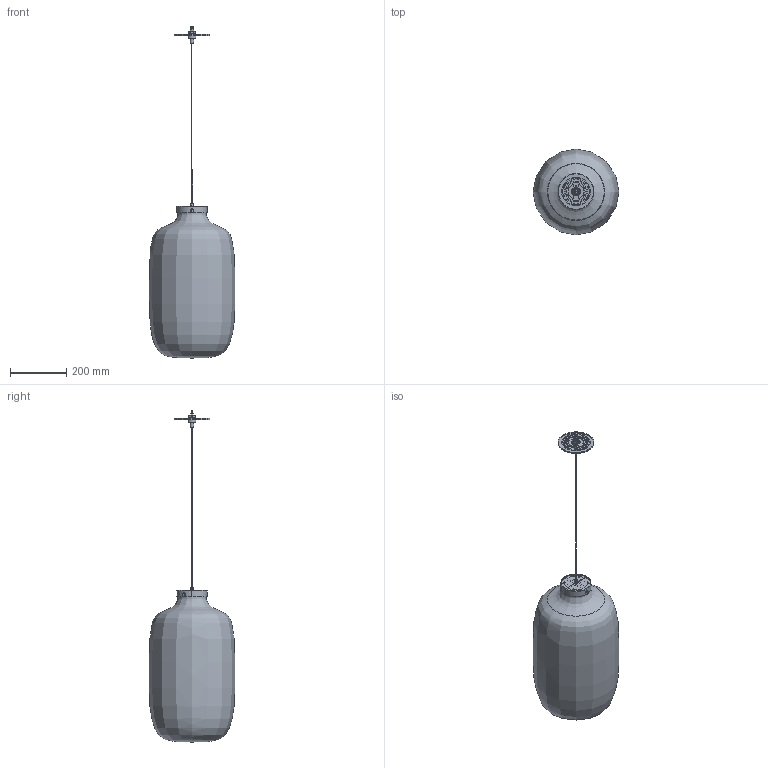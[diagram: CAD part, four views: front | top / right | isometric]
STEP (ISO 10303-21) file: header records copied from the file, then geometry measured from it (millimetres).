
FILE_DESCRIPTION(/* description */ (''),/* implementation_level */ '2;1');
FILE_NAME(/* name */ 'C:/Users/zach/Niche/Product Development - Documents/CAD Models/Pendants/Constellation Collection/Brava Series/Brava Tall/Glass - Low Voltage Hardware/Niche - Brava Tall Pendant.step',/* time_stamp */ '2022-09-02T10:09:50-04:00',/* author */ (''),/* organization */ (''),/* preprocessor_version */ 'ST-DEVELOPER v19',/* originating_system */ 'Autodesk Translation Framework v11.7.0.108',/* authorisation */ '');
FILE_SCHEMA (('AUTOMOTIVE_DESIGN { 1 0 10303 214 3 1 1 }'));
Length unit declared in the file: inch
Products named in the file (2): Brava Tall; Brava Tall_1
Assembly tree (1 placements, depth 2):
  Brava Tall
    Brava Tall_1
Bounding box: 304.71 x 304.41 x 1180.15 mm (x, y, z)
Volume: 1933929.2 mm3; surface area: 1137693 mm2
Topology: 29 solids, 29 shells, 710 faces, 1744 edges, 1148 vertices
Faces by surface type: plane 413, cylinder 194, bspline 69, cone 33, torus 1
Full cylindrical faces by diameter (mm): 0.571 x2, 1.016 x2, 1.778 x2, 2.032 x1, 2.54 x4, 2.794 x1, 3.302 x7, 3.556 x4, 3.81 x5, 4.064 x3, 4.826 x1, 5.08 x2, 5.461 x1, 6.096 x3, 7.6 x3, 8.128 x1, 8.89 x2, 9.312 x4, 10.16 x2, 12.7 x4, 13.97 x1, 18.923 x1, 19.558 x1, 22.86 x2, 24.13 x1, 26.924 x1, 28.194 x2, 82.55 x1, 101.6 x2, 125.476 x1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
Entity records: 27199 total; most frequent: CARTESIAN_POINT 10614, ORIENTED_EDGE 3488, DIRECTION 3130, EDGE_CURVE 1744, VERTEX_POINT 1150, AXIS2_PLACEMENT_3D 1044, LINE 1042, VECTOR 1042
